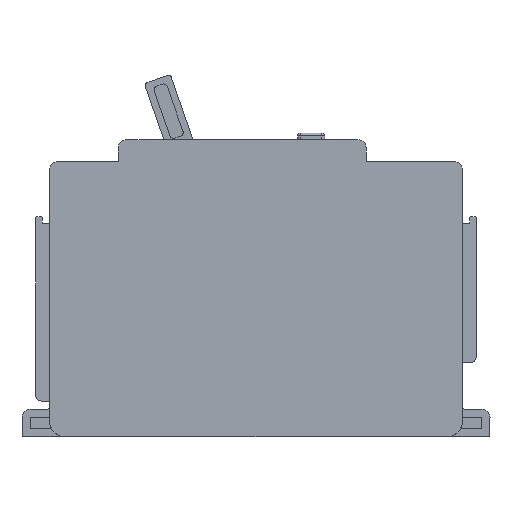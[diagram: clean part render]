
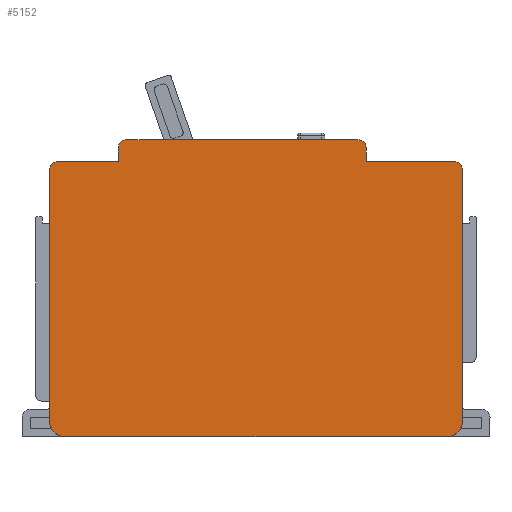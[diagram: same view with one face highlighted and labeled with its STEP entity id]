
A CAD part, left-side view. The second image highlights one B-rep face of the part: STEP entity #5152.
In plain terms, the highlighted planar face has unit normal (-1, 0, 0).
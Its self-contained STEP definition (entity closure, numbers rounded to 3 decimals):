
#16 = EDGE_CURVE ( 'NONE', #5432, #2734, #172, .T. ) ;
#19 = VECTOR ( 'NONE', #3292, 1000. ) ;
#87 = VERTEX_POINT ( 'NONE', #5456 ) ;
#104 = VECTOR ( 'NONE', #2365, 1000. ) ;
#108 = DIRECTION ( 'NONE',  ( 0., 0., -1. ) ) ;
#172 = LINE ( 'NONE', #700, #104 ) ;
#219 = ORIENTED_EDGE ( 'NONE', *, *, #16, .F. ) ;
#322 = DIRECTION ( 'NONE',  ( 0., 0., -1. ) ) ;
#327 = EDGE_CURVE ( 'NONE', #1399, #4419, #2966, .T. ) ;
#360 = CARTESIAN_POINT ( 'NONE',  ( -10., -19.75, 52.5 ) ) ;
#388 = AXIS2_PLACEMENT_3D ( 'NONE', #1474, #1071, #1011 ) ;
#392 = DIRECTION ( 'NONE',  ( 0., -1., 0. ) ) ;
#417 = CARTESIAN_POINT ( 'NONE',  ( -10., -18.25, 54. ) ) ;
#496 = LINE ( 'NONE', #3710, #5153 ) ;
#514 = CARTESIAN_POINT ( 'NONE',  ( -10., -35.75, 48.5 ) ) ;
#612 = CARTESIAN_POINT ( 'NONE',  ( -10., 37.75, 48.5 ) ) ;
#700 = CARTESIAN_POINT ( 'NONE',  ( -10., -37.25, 0. ) ) ;
#701 = EDGE_CURVE ( 'NONE', #3859, #2937, #2892, .T. ) ;
#708 = EDGE_CURVE ( 'NONE', #4419, #5278, #5083, .T. ) ;
#733 = CARTESIAN_POINT ( 'NONE',  ( -10., -34.45, 0. ) ) ;
#773 = LINE ( 'NONE', #4726, #3581 ) ;
#821 = VERTEX_POINT ( 'NONE', #3152 ) ;
#836 = VERTEX_POINT ( 'NONE', #733 ) ;
#929 = LINE ( 'NONE', #2244, #4401 ) ;
#980 = ORIENTED_EDGE ( 'NONE', *, *, #4704, .F. ) ;
#1011 = DIRECTION ( 'NONE',  ( 0., 0., -1. ) ) ;
#1046 = CARTESIAN_POINT ( 'NONE',  ( -10., 37.75, 6.5 ) ) ;
#1071 = DIRECTION ( 'NONE',  ( 1., 0., 0. ) ) ;
#1089 = CARTESIAN_POINT ( 'NONE',  ( -10., -18.25, 52.5 ) ) ;
#1113 = DIRECTION ( 'NONE',  ( 0., 0., -1. ) ) ;
#1125 = CARTESIAN_POINT ( 'NONE',  ( -10., 0., 50. ) ) ;
#1201 = CARTESIAN_POINT ( 'NONE',  ( -10., 25.25, 50. ) ) ;
#1302 = VECTOR ( 'NONE', #392, 1000. ) ;
#1342 = ORIENTED_EDGE ( 'NONE', *, *, #2233, .F. ) ;
#1359 = ORIENTED_EDGE ( 'NONE', *, *, #327, .F. ) ;
#1390 = VERTEX_POINT ( 'NONE', #1046 ) ;
#1399 = VERTEX_POINT ( 'NONE', #5331 ) ;
#1407 = VECTOR ( 'NONE', #1452, 1000. ) ;
#1432 = CARTESIAN_POINT ( 'NONE',  ( -10., 23.75, 54. ) ) ;
#1452 = DIRECTION ( 'NONE',  ( 0., 0., 1. ) ) ;
#1469 = DIRECTION ( 'NONE',  ( 0., -1., 0. ) ) ;
#1474 = CARTESIAN_POINT ( 'NONE',  ( -10., 23.75, 52.5 ) ) ;
#1527 = DIRECTION ( 'NONE',  ( 0., 0., 1. ) ) ;
#1559 = CARTESIAN_POINT ( 'NONE',  ( -10., -19.75, 0. ) ) ;
#1603 = ORIENTED_EDGE ( 'NONE', *, *, #3322, .F. ) ;
#1606 = DIRECTION ( 'NONE',  ( 1., 0., 0. ) ) ;
#1691 = LINE ( 'NONE', #1559, #4805 ) ;
#1709 = VERTEX_POINT ( 'NONE', #3014 ) ;
#1714 = CARTESIAN_POINT ( 'NONE',  ( -10., -34.45, 2.8 ) ) ;
#1747 = EDGE_CURVE ( 'NONE', #2937, #1399, #773, .T. ) ;
#1787 = ORIENTED_EDGE ( 'NONE', *, *, #1747, .F. ) ;
#1790 = DIRECTION ( 'NONE',  ( 1., 0., 0. ) ) ;
#1844 = LINE ( 'NONE', #4497, #5086 ) ;
#1847 = AXIS2_PLACEMENT_3D ( 'NONE', #4527, #3761, #322 ) ;
#1896 = DIRECTION ( 'NONE',  ( 1., 0., 0. ) ) ;
#1949 = EDGE_CURVE ( 'NONE', #87, #1390, #2625, .T. ) ;
#1961 = EDGE_CURVE ( 'NONE', #2734, #2952, #1844, .T. ) ;
#1972 = ORIENTED_EDGE ( 'NONE', *, *, #2139, .F. ) ;
#1995 = CARTESIAN_POINT ( 'NONE',  ( -10., 0., 50. ) ) ;
#2008 = EDGE_CURVE ( 'NONE', #4308, #4953, #3515, .T. ) ;
#2010 = EDGE_LOOP ( 'NONE', ( #1972, #1342, #4834, #219, #2974, #1603, #3153, #4612, #5096, #1359, #1787, #4299, #5203, #3912, #2916, #980, #4708, #5257 ) ) ;
#2050 = CARTESIAN_POINT ( 'NONE',  ( -10., 0., 54. ) ) ;
#2059 = CARTESIAN_POINT ( 'NONE',  ( -10., -37.25, 0. ) ) ;
#2123 = CARTESIAN_POINT ( 'NONE',  ( -10., -37.25, 8. ) ) ;
#2139 = EDGE_CURVE ( 'NONE', #836, #1709, #496, .T. ) ;
#2144 = EDGE_CURVE ( 'NONE', #2971, #4308, #2623, .T. ) ;
#2228 = LINE ( 'NONE', #1995, #19 ) ;
#2233 = EDGE_CURVE ( 'NONE', #2952, #836, #2640, .T. ) ;
#2244 = CARTESIAN_POINT ( 'NONE',  ( -10., 25.25, 0. ) ) ;
#2365 = DIRECTION ( 'NONE',  ( 0., 0., -1. ) ) ;
#2388 = DIRECTION ( 'NONE',  ( 0., 0., -1. ) ) ;
#2470 = PLANE ( 'NONE',  #1847 ) ;
#2623 = CIRCLE ( 'NONE', #4845, 1.5 ) ;
#2625 = LINE ( 'NONE', #4098, #4894 ) ;
#2632 = CARTESIAN_POINT ( 'NONE',  ( -10., -35.75, 50. ) ) ;
#2640 = CIRCLE ( 'NONE', #2965, 2.8 ) ;
#2734 = VERTEX_POINT ( 'NONE', #2123 ) ;
#2769 = VERTEX_POINT ( 'NONE', #2632 ) ;
#2811 = FACE_OUTER_BOUND ( 'NONE', #2010, .T. ) ;
#2862 = CIRCLE ( 'NONE', #4719, 2.8 ) ;
#2869 = EDGE_CURVE ( 'NONE', #4953, #3859, #929, .T. ) ;
#2883 = CARTESIAN_POINT ( 'NONE',  ( -10., 34.95, 2.8 ) ) ;
#2892 = CIRCLE ( 'NONE', #388, 1.5 ) ;
#2916 = ORIENTED_EDGE ( 'NONE', *, *, #2144, .F. ) ;
#2920 = DIRECTION ( 'NONE',  ( 0., 0., -1. ) ) ;
#2937 = VERTEX_POINT ( 'NONE', #1432 ) ;
#2952 = VERTEX_POINT ( 'NONE', #5218 ) ;
#2965 = AXIS2_PLACEMENT_3D ( 'NONE', #1714, #3376, #2920 ) ;
#2966 = LINE ( 'NONE', #2050, #1302 ) ;
#2971 = VERTEX_POINT ( 'NONE', #612 ) ;
#2974 = ORIENTED_EDGE ( 'NONE', *, *, #4901, .F. ) ;
#3014 = CARTESIAN_POINT ( 'NONE',  ( -10., 34.95, 0. ) ) ;
#3034 = DIRECTION ( 'NONE',  ( 0., -1., 0. ) ) ;
#3142 = LINE ( 'NONE', #2059, #3622 ) ;
#3152 = CARTESIAN_POINT ( 'NONE',  ( -10., -37.25, 48.5 ) ) ;
#3153 = ORIENTED_EDGE ( 'NONE', *, *, #5193, .F. ) ;
#3255 = CIRCLE ( 'NONE', #4176, 1.5 ) ;
#3292 = DIRECTION ( 'NONE',  ( 0., -1., 0. ) ) ;
#3314 = DIRECTION ( 'NONE',  ( 0., 0., -1. ) ) ;
#3322 = EDGE_CURVE ( 'NONE', #2769, #821, #3255, .T. ) ;
#3376 = DIRECTION ( 'NONE',  ( 1., 0., 0. ) ) ;
#3515 = LINE ( 'NONE', #1125, #3575 ) ;
#3575 = VECTOR ( 'NONE', #1469, 1000. ) ;
#3581 = VECTOR ( 'NONE', #3034, 1000. ) ;
#3622 = VECTOR ( 'NONE', #4646, 1000. ) ;
#3666 = DIRECTION ( 'NONE',  ( 1., 0., 0. ) ) ;
#3710 = CARTESIAN_POINT ( 'NONE',  ( -10., 0., 0. ) ) ;
#3731 = CARTESIAN_POINT ( 'NONE',  ( -10., 36.25, 48.5 ) ) ;
#3761 = DIRECTION ( 'NONE',  ( 1., 0., 0. ) ) ;
#3770 = DIRECTION ( 'NONE',  ( 0., 1., 0. ) ) ;
#3859 = VERTEX_POINT ( 'NONE', #5118 ) ;
#3912 = ORIENTED_EDGE ( 'NONE', *, *, #2008, .F. ) ;
#4098 = CARTESIAN_POINT ( 'NONE',  ( -10., 37.75, 0. ) ) ;
#4112 = DIRECTION ( 'NONE',  ( 0., 0., -1. ) ) ;
#4147 = EDGE_CURVE ( 'NONE', #1709, #87, #2862, .T. ) ;
#4176 = AXIS2_PLACEMENT_3D ( 'NONE', #514, #1790, #108 ) ;
#4299 = ORIENTED_EDGE ( 'NONE', *, *, #701, .F. ) ;
#4308 = VERTEX_POINT ( 'NONE', #5055 ) ;
#4310 = CARTESIAN_POINT ( 'NONE',  ( -10., -37.25, 13.5 ) ) ;
#4401 = VECTOR ( 'NONE', #5144, 1000. ) ;
#4419 = VERTEX_POINT ( 'NONE', #417 ) ;
#4425 = AXIS2_PLACEMENT_3D ( 'NONE', #1089, #1896, #5264 ) ;
#4497 = CARTESIAN_POINT ( 'NONE',  ( -10., -37.25, 0. ) ) ;
#4527 = CARTESIAN_POINT ( 'NONE',  ( -10., 0., 0. ) ) ;
#4612 = ORIENTED_EDGE ( 'NONE', *, *, #5107, .F. ) ;
#4646 = DIRECTION ( 'NONE',  ( 0., 0., -1. ) ) ;
#4704 = EDGE_CURVE ( 'NONE', #1390, #2971, #5330, .T. ) ;
#4708 = ORIENTED_EDGE ( 'NONE', *, *, #1949, .F. ) ;
#4719 = AXIS2_PLACEMENT_3D ( 'NONE', #2883, #3666, #1113 ) ;
#4726 = CARTESIAN_POINT ( 'NONE',  ( -10., 0., 54. ) ) ;
#4805 = VECTOR ( 'NONE', #4112, 1000. ) ;
#4814 = CARTESIAN_POINT ( 'NONE',  ( -10., 37.75, 0. ) ) ;
#4834 = ORIENTED_EDGE ( 'NONE', *, *, #1961, .F. ) ;
#4845 = AXIS2_PLACEMENT_3D ( 'NONE', #3731, #1606, #3314 ) ;
#4852 = VERTEX_POINT ( 'NONE', #4940 ) ;
#4894 = VECTOR ( 'NONE', #1527, 1000. ) ;
#4901 = EDGE_CURVE ( 'NONE', #821, #5432, #3142, .T. ) ;
#4940 = CARTESIAN_POINT ( 'NONE',  ( -10., -19.75, 50. ) ) ;
#4953 = VERTEX_POINT ( 'NONE', #1201 ) ;
#5055 = CARTESIAN_POINT ( 'NONE',  ( -10., 36.25, 50. ) ) ;
#5083 = CIRCLE ( 'NONE', #4425, 1.5 ) ;
#5086 = VECTOR ( 'NONE', #2388, 1000. ) ;
#5096 = ORIENTED_EDGE ( 'NONE', *, *, #708, .F. ) ;
#5107 = EDGE_CURVE ( 'NONE', #5278, #4852, #1691, .T. ) ;
#5118 = CARTESIAN_POINT ( 'NONE',  ( -10., 25.25, 52.5 ) ) ;
#5144 = DIRECTION ( 'NONE',  ( 0., 0., 1. ) ) ;
#5152 = ADVANCED_FACE ( 'NONE', ( #2811 ), #2470, .F. ) ;
#5153 = VECTOR ( 'NONE', #3770, 1000. ) ;
#5193 = EDGE_CURVE ( 'NONE', #4852, #2769, #2228, .T. ) ;
#5203 = ORIENTED_EDGE ( 'NONE', *, *, #2869, .F. ) ;
#5218 = CARTESIAN_POINT ( 'NONE',  ( -10., -37.25, 2.8 ) ) ;
#5257 = ORIENTED_EDGE ( 'NONE', *, *, #4147, .F. ) ;
#5264 = DIRECTION ( 'NONE',  ( 0., 0., -1. ) ) ;
#5278 = VERTEX_POINT ( 'NONE', #360 ) ;
#5330 = LINE ( 'NONE', #4814, #1407 ) ;
#5331 = CARTESIAN_POINT ( 'NONE',  ( -10., 19.05, 54. ) ) ;
#5432 = VERTEX_POINT ( 'NONE', #4310 ) ;
#5456 = CARTESIAN_POINT ( 'NONE',  ( -10., 37.75, 2.8 ) ) ;
